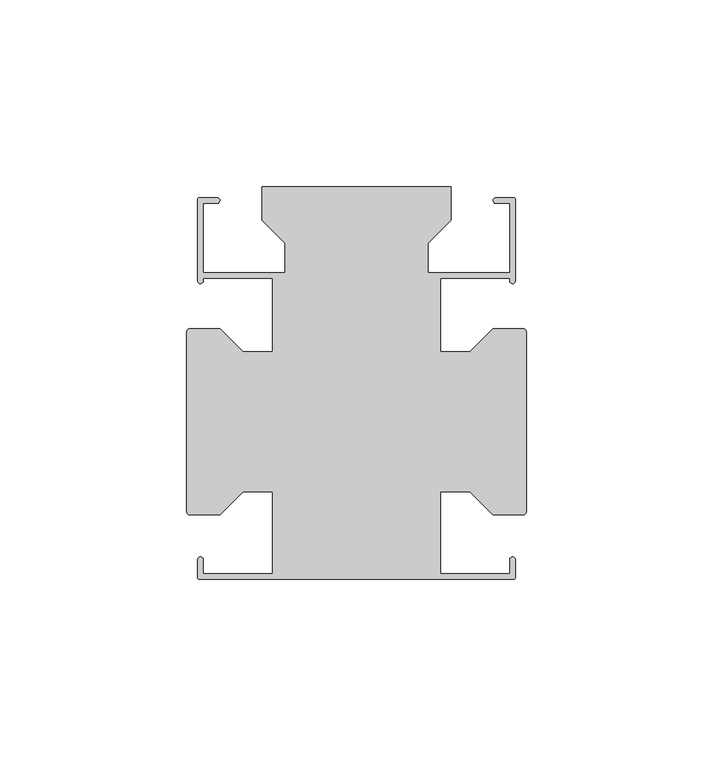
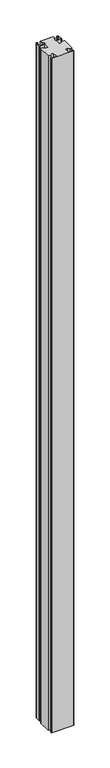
"""IFC4 building model written with IfcOpenShell, lengths in millimetres: member geometry, Прямоугольный импост : AMG-2-Профиль 105Х85 3 грани средний 3 стороны."""

from ifc_helpers import new_model, si_unit, point, frame, frame_2d, origin, place, context, project, spatial, polyline, circle_curve, trimmed, segment, composite_curve, outline, extrude, source, transform, mapped, element, save


def member_9edbbed2(model_context):
    return source(origin(), model_context, "Body", "SweptSolid", [
        extrude(outline(composite_curve([segment(polyline([(42.4976562, -36.8135237), (42.4976562, -41.5999999)]), True, "CONTINUOUS"), segment(trimmed(circle_curve(frame_2d((41.9976562, -41.5999999)), 0.5), [point((42.4976562, -41.5999999))], [point((41.9976562, -42.0999999))], False, "CARTESIAN"), True, "CONTINUOUS"), segment(polyline([(41.9976562, -42.0999999), (-42.0023438, -42.0999999)]), True, "CONTINUOUS"), segment(trimmed(circle_curve(frame_2d((-42.0023438, -41.5999999)), 0.5), [point((-42.0023438, -42.0999999))], [point((-42.5023438, -41.5999999))], False, "CARTESIAN"), True, "CONTINUOUS"), segment(polyline([(-42.5023438, -41.5999999), (-42.5023438, -36.8999999)]), True, "CONTINUOUS"), segment(trimmed(circle_curve(frame_2d((-41.7023438, -36.8999999)), 0.8), [point((-42.5023438, -36.8999999))], [point((-41.7023438, -36.0999999))], False, "CARTESIAN"), True, "CONTINUOUS"), segment(polyline([(-41.7023438, -36.0999999), (-41.0023438, -36.4566677), (-41.0023438, -40.5999999), (-22.5023438, -40.5999999), (-22.5023438, -18.6999999), (-30.3523438, -18.6999999), (-36.5023438, -24.8499999), (-44.6023438, -24.8499999)]), True, "CONTINUOUS"), segment(trimmed(circle_curve(frame_2d((-44.6023438, -24.0499999)), 0.8), [point((-44.6023438, -24.8499999))], [point((-45.4023438, -24.0499999))], False, "CARTESIAN"), True, "CONTINUOUS"), segment(polyline([(-45.4023438, -24.0499999), (-45.4023438, 24.0499999)]), True, "CONTINUOUS"), segment(trimmed(circle_curve(frame_2d((-44.6023438, 24.0499999)), 0.8), [point((-45.4023438, 24.0499999))], [point((-44.6023438, 24.8499999))], False, "CARTESIAN"), True, "CONTINUOUS"), segment(polyline([(-44.6023438, 24.8499999), (-36.5023438, 24.8499999), (-30.3523438, 18.6999999), (-22.5023438, 18.6999999), (-22.5023438, 38.4000001), (-41.0023438, 38.4000001), (-41.0023438, 37.2566679), (-41.7023438, 36.9000001)]), True, "CONTINUOUS"), segment(trimmed(circle_curve(frame_2d((-41.7023438, 37.7000001)), 0.8), [point((-41.7023438, 36.9000001))], [point((-42.5023438, 37.7000001))], False, "CARTESIAN"), True, "CONTINUOUS"), segment(polyline([(-42.5023438, 37.7000001), (-42.5023438, 59.4000001)]), True, "CONTINUOUS"), segment(trimmed(circle_curve(frame_2d((-42.0023438, 59.4000001)), 0.5), [point((-42.5023438, 59.4000001))], [point((-42.0023438, 59.9000001))], False, "CARTESIAN"), True, "CONTINUOUS"), segment(polyline([(-42.0023438, 59.9000001), (-37.3023438, 59.9000001)]), True, "CONTINUOUS"), segment(trimmed(circle_curve(frame_2d((-37.3023438, 59.1000001)), 0.8), [point((-37.3023438, 59.9000001))], [point((-36.5557047, 59.3872807))], False, "CARTESIAN"), True, "CONTINUOUS"), segment(polyline([(-36.5557047, 59.3872807), (-36.9150454, 58.4000001), (-41.0023438, 58.4000001), (-41.0023438, 39.9000001), (-19.1023438, 39.9000001), (-19.1023438, 47.7500001), (-25.2523438, 53.9000001), (-25.2523438, 62.8000001), (25.2523438, 62.8000001), (25.2523438, 53.9000001), (19.1023438, 47.7500001), (19.1023438, 39.9000001), (41.0023438, 39.9000001), (41.0023438, 58.4000001), (36.9150454, 58.4000001), (36.5557047, 59.3872807)]), True, "CONTINUOUS"), segment(trimmed(circle_curve(frame_2d((37.3023438, 59.1000001)), 0.8), [point((36.5557047, 59.3872807))], [point((37.3023438, 59.9000001))], False, "CARTESIAN"), True, "CONTINUOUS"), segment(polyline([(37.3023438, 59.9000001), (42.0023438, 59.9000001)]), True, "CONTINUOUS"), segment(trimmed(circle_curve(frame_2d((42.0023438, 59.4000001)), 0.5), [point((42.0023438, 59.9000001))], [point((42.5023438, 59.4000001))], False, "CARTESIAN"), True, "CONTINUOUS"), segment(polyline([(42.5023438, 59.4000001), (42.5023438, 37.7000001)]), True, "CONTINUOUS"), segment(trimmed(circle_curve(frame_2d((41.7023438, 37.7000001)), 0.8), [point((42.5023438, 37.7000001))], [point((41.7023438, 36.9000001))], False, "CARTESIAN"), True, "CONTINUOUS"), segment(polyline([(41.7023438, 36.9000001), (41.0023438, 37.2566679), (41.0023438, 38.4000001), (22.5023438, 38.4000001), (22.5023438, 18.6999999), (30.3523438, 18.6999999), (36.5023438, 24.8499999), (44.5976562, 24.8499999)]), True, "CONTINUOUS"), segment(trimmed(circle_curve(frame_2d((44.5976562, 24.0499999)), 0.8), [point((44.5976562, 24.8499999))], [point((45.3976562, 24.0499999))], False, "CARTESIAN"), True, "CONTINUOUS"), segment(polyline([(45.3976562, 24.0499999), (45.3976562, -24.0499999)]), True, "CONTINUOUS"), segment(trimmed(circle_curve(frame_2d((44.5976562, -24.0499999)), 0.8), [point((45.3976562, -24.0499999))], [point((44.5976562, -24.8499999))], False, "CARTESIAN"), True, "CONTINUOUS"), segment(polyline([(44.5976562, -24.8499999), (36.5023438, -24.8499999), (30.3523438, -18.6999999), (22.5023438, -18.6999999), (22.5023438, -40.5999999), (41.0023438, -40.5999999), (41.0023438, -36.4566677), (41.7023438, -36.0999999)]), True, "CONTINUOUS"), segment(trimmed(circle_curve(frame_2d((41.7023438, -36.8999999)), 0.8), [point((41.7023438, -36.0999999))], [point((42.4976562, -36.8135237))], False, "CARTESIAN"), True, "CONTINUOUS")], self_intersect=False)), frame((0.0, 0.0, -2717.8), z_axis=(0.0, 0.0, 1.0), x_axis=(1.0, 0.0, 0.0)), (0.0, 0.0, 1.0), 2717.8),
    ])


if __name__ == "__main__":
    model = new_model("IFC4")
    model_context = context("Model", 3, world=origin())
    ifc_project = project(units=[si_unit("LENGTHUNIT", "METRE", prefix="MILLI")], contexts=[model_context])
    site = spatial("IfcSite", under=ifc_project)
    building = spatial("IfcBuilding", under=site)
    placement = place(None, origin())
    member_shape = member_9edbbed2(model_context)
    element("IfcMember", 1, ObjectType="Прямоугольный импост : AMG-2-Профиль 105Х85 3 грани средний 3 стороны", at=placement, inside=building, context=model_context, shape_type="MappedRepresentation", body=[
        mapped(member_shape, transform((0.0, 0.0, 0.0), x_axis=(1.0, 0.0, 0.0), y_axis=(0.0, 1.0, 0.0), z_axis=(0.0, 0.0, 1.0))),
    ])
    save(model, "model.ifc")
